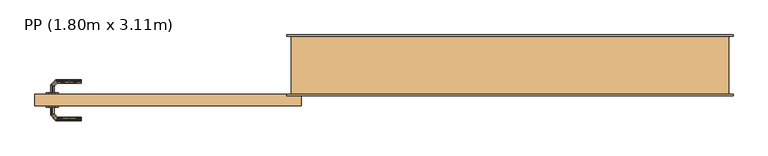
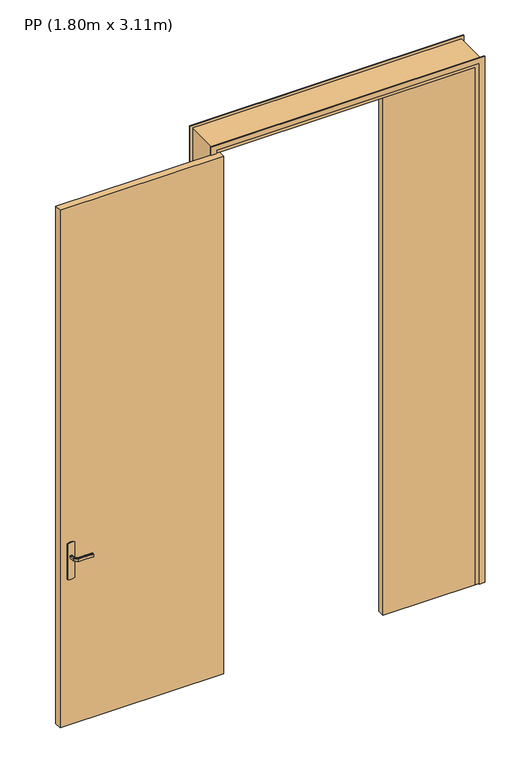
"""IFC4 building model written with IfcOpenShell, lengths in millimetres: door geometry, PP (1.80m x 3.11m)."""

import ifcopenshell
import ifcopenshell.guid

model = None  # the IFC model being written
_history = None  # IfcOwnerHistory: only IFC2X3 demands one
_inside = {}  # id of a spatial element -> (the spatial element, [elements in it])
_under = {}  # id of a project, library or spatial element -> (it, [spatial elements below it])
_declared = {}  # id of a project -> (the project, [libraries it declares])
_typed = {}  # id of a type object -> (the type object, [elements of that type])
_made_of = {}  # id of a material, layer set ... -> (it, [elements and type objects made of it])


def new_model(schema):
    """Start an empty IFC model of exactly this schema.

    Asked for "IFC4X3", IfcOpenShell would pick the latest addendum, in which some entities
    have other attributes; the version numbers below select the first issue.
    IFC2X3 requires an IfcOwnerHistory on every rooted entity: one is made here for all.
    """
    global model, _history
    if schema == "IFC4X3":
        model = ifcopenshell.file(schema_version=(4, 3, 0, 0))
    else:
        model = ifcopenshell.file(schema=schema)
    _inside.clear()
    _under.clear()
    _declared.clear()
    _typed.clear()
    _made_of.clear()
    _history = None
    if model.schema == "IFC2X3":
        org = make("IfcOrganization", Name="unknown")
        user = make(
            "IfcPersonAndOrganization",
            ThePerson=make("IfcPerson", FamilyName="unknown"),
            TheOrganization=org,
        )
        app = make(
            "IfcApplication",
            ApplicationDeveloper=org,
            Version="unknown",
            ApplicationFullName="unknown",
            ApplicationIdentifier="unknown",
        )
        _history = make(
            "IfcOwnerHistory",
            OwningUser=user,
            OwningApplication=app,
            ChangeAction="ADDED",
            CreationDate=0,
        )
    return model


def make(cls, **values):
    """One entity of the class cls with the attributes given. An attribute that is None is left unset."""
    return model.create_entity(
        cls, **{name: value for name, value in values.items() if value is not None}
    )


def rooted(cls, **values):
    """An entity with a GlobalId (a new one), such as an element, a storey or a relation."""
    return make(cls, GlobalId=ifcopenshell.guid.new(), OwnerHistory=_history, **values)


def si_unit(unit_type, name, prefix=None):
    """IfcSIUnit, for example si_unit("LENGTHUNIT", "METRE", prefix="MILLI")."""
    return make("IfcSIUnit", UnitType=unit_type, Prefix=prefix, Name=name)


def assignment(units):
    """IfcUnitAssignment: the units of a project."""
    return None if units is None else make("IfcUnitAssignment", Units=units)


def point(xyz):
    """IfcCartesianPoint."""
    return None if xyz is None else make("IfcCartesianPoint", Coordinates=xyz)


def direction(xyz):
    """IfcDirection."""
    return None if xyz is None else make("IfcDirection", DirectionRatios=xyz)


def frame(location, z_axis=None, x_axis=None):
    """IfcAxis2Placement3D, a coordinate frame: its origin and axes. An axis left out is left unset."""
    return make(
        "IfcAxis2Placement3D",
        Location=point(location),
        Axis=direction(z_axis),
        RefDirection=direction(x_axis),
    )


def origin():
    """The frame at (0, 0, 0) with its axes left unset."""
    return frame((0.0, 0.0, 0.0))


def origin_with_axes():
    """The frame at (0, 0, 0) with the z axis (0, 0, 1) and the x axis (1, 0, 0) written out."""
    return frame((0.0, 0.0, 0.0), z_axis=(0.0, 0.0, 1.0), x_axis=(1.0, 0.0, 0.0))


def place(relative_to, where):
    """IfcLocalPlacement: puts the frame where relative to a parent placement (None: the world)."""
    return make(
        "IfcLocalPlacement", PlacementRelTo=relative_to, RelativePlacement=where
    )


def context(
    kind, dimensions, precision=None, world=None, true_north=None, identifier=None
):
    """IfcGeometricRepresentationContext, for example the 3D "Model" context."""
    return make(
        "IfcGeometricRepresentationContext",
        ContextIdentifier=identifier,
        ContextType=kind,
        CoordinateSpaceDimension=dimensions,
        Precision=precision,
        WorldCoordinateSystem=world,
        TrueNorth=true_north,
    )


def project(units=None, contexts=None):
    """IfcProject with its units and contexts."""
    return rooted(
        "IfcProject",
        Name="project",
        RepresentationContexts=contexts,
        UnitsInContext=assignment(units),
    )


def spatial(cls, under=None, at=None, **own):
    """A site, building, storey or space (cls), placed at a placement, below another one or the project."""
    s = rooted(cls, ObjectPlacement=at, **own)
    if under is not None:
        _under.setdefault(under.id(), (under, []))[1].append(s)
    return s


def polyline(points):
    """IfcPolyline through the points."""
    return make("IfcPolyline", Points=[point(p) for p in points])


def outline(outer, holes=None, kind="AREA"):
    """IfcArbitraryClosedProfileDef: a profile drawn as a closed curve; with holes, ...WithVoids."""
    if holes is None:
        return make("IfcArbitraryClosedProfileDef", ProfileType=kind, OuterCurve=outer)
    return make(
        "IfcArbitraryProfileDefWithVoids",
        ProfileType=kind,
        OuterCurve=outer,
        InnerCurves=holes,
    )


def extrude(swept, where, along, depth):
    """IfcExtrudedAreaSolid: the profile swept, set in the frame where, extruded along a direction by depth."""
    return make(
        "IfcExtrudedAreaSolid",
        SweptArea=swept,
        Position=where,
        ExtrudedDirection=direction(along),
        Depth=depth,
    )


def faces_of(points, faces, orient=None, outer=None):
    """IfcFace entities. A face is a list of loops; a loop is a list of indices into points, from 0.

    orient and outer hold one flag for each loop. By default every Orientation is true, the
    first loop of a face is its IfcFaceOuterBound and the others are IfcFaceBound.
    """
    made = []
    for i, loops in enumerate(faces):
        bounds = []
        for j, loop in enumerate(loops):
            is_outer = j == 0 if outer is None else outer[i][j]
            bounds.append(
                make(
                    "IfcFaceOuterBound" if is_outer else "IfcFaceBound",
                    Bound=make("IfcPolyLoop", Polygon=[points[k] for k in loop]),
                    Orientation=True if orient is None else orient[i][j],
                )
            )
        made.append(make("IfcFace", Bounds=bounds))
    return made


def faceted_brep(points, faces, orient=None, outer=None, voids=None):
    """IfcFacetedBrep: a solid bounded by flat faces; with voids (closed shells), ...WithVoids."""
    shared = [point(p) for p in points]
    hull = make("IfcClosedShell", CfsFaces=faces_of(shared, faces, orient, outer))
    if voids is None:
        return make("IfcFacetedBrep", Outer=hull)
    return make(
        "IfcFacetedBrepWithVoids",
        Outer=hull,
        Voids=[
            make(cls, CfsFaces=faces_of(shared, fs, o, b)) for cls, fs, o, b in voids
        ],
    )


def shape(context_of_items, identifier, shape_type, items):
    """IfcShapeRepresentation: the items that make up one representation, for example the "Body"."""
    return make(
        "IfcShapeRepresentation",
        ContextOfItems=context_of_items,
        RepresentationIdentifier=identifier,
        RepresentationType=shape_type,
        Items=items,
    )


def source(mapping_origin, context_of_items, identifier, shape_type, items):
    """IfcRepresentationMap: a shape defined once, which mapped items show again and again."""
    return make(
        "IfcRepresentationMap",
        MappingOrigin=mapping_origin,
        MappedRepresentation=shape(context_of_items, identifier, shape_type, items),
    )


def transform(
    local_origin,
    x_axis=None,
    y_axis=None,
    z_axis=None,
    scale=None,
    scale2=None,
    scale3=None,
    uniform=True,
):
    """IfcCartesianTransformationOperator3D, or its non-uniform kind. x_axis, y_axis, z_axis: its Axis1, 2, 3."""
    if uniform:
        return make(
            "IfcCartesianTransformationOperator3D",
            Axis1=direction(x_axis),
            Axis2=direction(y_axis),
            LocalOrigin=point(local_origin),
            Scale=scale,
            Axis3=direction(z_axis),
        )
    return make(
        "IfcCartesianTransformationOperator3DnonUniform",
        Axis1=direction(x_axis),
        Axis2=direction(y_axis),
        LocalOrigin=point(local_origin),
        Scale=scale,
        Axis3=direction(z_axis),
        Scale2=scale2,
        Scale3=scale3,
    )


def mapped(mapping_source, mapping_target):
    """IfcMappedItem: shows the shape of a source again, moved by a transform."""
    return make(
        "IfcMappedItem", MappingSource=mapping_source, MappingTarget=mapping_target
    )


def made_of(thing, what):
    """Note that an element or type object is made of a material, layer set ...; save() writes the relation."""
    if what is not None:
        _made_of.setdefault(what.id(), (what, []))[1].append(thing)
    return thing


def element(
    cls,
    number,
    at=None,
    inside=None,
    cuts=None,
    type_object=None,
    material=None,
    context=None,
    identifier="Body",
    shape_type=None,
    held_by="IfcProductDefinitionShape",
    body=None,
    shapes=None,
    **own,
):
    """One element of the class cls, such as IfcWall. Its Tag is "e" and its number.

    at: its placement. inside: the storey or other place that contains it. cuts: it is an
    opening in that element (IfcRelVoidsElement). A single representation is given by context,
    identifier, shape_type and body (its items); several are given by shapes. held_by: the class
    of the entity that holds the representations. save() writes the other relations.
    """
    e = rooted(cls, Tag="e%d" % number, ObjectPlacement=at, **own)
    if body is not None:
        shapes = [shape(context, identifier, shape_type, body)]
    if shapes is not None:
        e.Representation = make(held_by, Representations=shapes)
    if inside is not None:
        _inside.setdefault(inside.id(), (inside, []))[1].append(e)
    if cuts is not None:
        rooted(
            "IfcRelVoidsElement", RelatingBuildingElement=cuts, RelatedOpeningElement=e
        )
    if type_object is not None:
        _typed.setdefault(type_object.id(), (type_object, []))[1].append(e)
    return made_of(e, material)


def aggregate(whole, parts):
    """IfcRelAggregates: a whole, such as a stair, and the parts it consists of."""
    return rooted("IfcRelAggregates", RelatingObject=whole, RelatedObjects=parts)


def save(model, path):
    """Write the relations noted so far, then the file.

    IfcRelAggregates (storeys below a building ...), IfcRelContainedInSpatialStructure (elements
    in a storey), IfcRelDefinesByType, IfcRelAssociatesMaterial and IfcRelDeclares: one each for
    every whole, place, type object, material and project.
    """
    for whole, parts in _under.values():
        aggregate(whole, parts)
    for where, things in _inside.values():
        rooted(
            "IfcRelContainedInSpatialStructure",
            RelatedElements=things,
            RelatingStructure=where,
        )
    for kind, things in _typed.values():
        rooted("IfcRelDefinesByType", RelatedObjects=things, RelatingType=kind)
    for what, things in _made_of.values():
        rooted("IfcRelAssociatesMaterial", RelatedObjects=things, RelatingMaterial=what)
    for by, libraries in _declared.values():
        rooted("IfcRelDeclares", RelatingContext=by, RelatedDefinitions=libraries)
    model.write(path)


def pp_1_80m_x_3_11m_81251f9f(model_context):
    return source(origin(), model_context, "Body", "SolidModel", [
        faceted_brep([(-822.9747013, 5.0, 1007.7804408), (-827.0252987, 5.0, 1007.7804408), (-831.0, 5.0, 1007.0), (-831.0, 5.0, 993.0), (-827.0252987, 5.0, 992.2195592), (-822.9747013, 5.0, 992.2195592), (-819.0, 5.0, 993.0), (-819.0, 5.0, 1007.0), (-827.0252987, 31.0045755, 1007.7804408), (-831.0, 32.6509507, 1007.0), (-822.9747013, 29.3267632, 1007.7804408), (-809.2986025, 43.002862, 1007.7804408), (-810.9764148, 47.0534593, 1007.7804408), (-819.0, 27.680388, 1007.0), (-819.0, 27.680388, 993.0), (-822.9747013, 29.3267632, 992.2195592), (-827.0252987, 31.0045755, 992.2195592), (-810.9764148, 47.0534593, 992.2195592), (-809.2986025, 43.002862, 992.2195592), (-831.0, 32.6509507, 993.0), (-812.62279, 51.0281607, 1007.0), (-807.6522273, 39.0281607, 1007.0), (-807.6522273, 39.0281607, 993.0), (-812.62279, 51.0281607, 993.0), (-724.9813594, 51.0281607, 1007.0), (-724.9813594, 47.0534593, 1007.7804408), (-724.9813594, 43.002862, 1007.7804408), (-724.9813594, 39.0281607, 1007.0), (-724.9813594, 39.0281607, 993.0), (-724.9813594, 43.002862, 992.2195592), (-724.9813594, 47.0534593, 992.2195592), (-724.9813594, 51.0281607, 993.0), (-767.1399809, 45.0281607, 1007.8786868), (-772.6923028, 51.0281607, 1007.0), (-766.3167933, 39.0281607, 1007.0), (-766.3167933, 39.0281607, 993.0), (-767.1399811, 45.0281608, 992.1213132), (-772.6923104, 51.0281607, 993.0)], [[[0, 1, 2, 3, 4, 5, 6, 7]], [[2, 1, 8, 9]], [[1, 0, 10, 11, 12, 8]], [[0, 7, 13, 10]], [[14, 13, 7, 6]], [[5, 15, 14, 6]], [[5, 4, 16, 17, 18, 15]], [[3, 19, 16, 4]], [[9, 19, 3, 2]], [[9, 8, 12, 20]], [[10, 13, 21, 11]], [[22, 21, 13, 14]], [[14, 15, 18, 22]], [[16, 19, 23, 17]], [[20, 23, 19, 9]], [[24, 25, 26, 27, 28, 29, 30, 31]], [[32, 25, 33]], [[33, 25, 24]], [[33, 20, 12]], [[11, 34, 32]], [[34, 11, 21]], [[27, 26, 34]], [[32, 26, 25]], [[32, 34, 26]], [[32, 33, 12]], [[11, 32, 12]], [[21, 22, 35, 28, 27, 34]], [[36, 29, 35]], [[30, 36, 37]], [[18, 35, 22]], [[29, 28, 35]], [[30, 37, 31]], [[37, 17, 23]], [[36, 17, 37]], [[36, 18, 17]], [[36, 35, 18]], [[29, 36, 30]], [[23, 20, 33, 24, 31, 37]]]),
        extrude(outline(polyline([(1085.3589838, -825.0), (1083.9960169, -835.3527618), (1080.0, -845.0), (870.0, -845.0), (866.0039831, -835.3527618), (864.6410162, -825.0), (866.0039831, -814.6472382), (870.0, -805.0), (1080.0, -805.0), (1083.9960169, -814.6472382), (1085.3589838, -825.0)])), frame((0.0, -45.0, 0.0), z_axis=(0.0, 1.0, 0.0), x_axis=(0.0, 0.0, 1.0)), (0.0, 0.0, 1.0), 5.0),
        extrude(outline(polyline([(0.0, -15.0), (0.0, 15.0), (3095.0, 15.0), (3095.0, 1495.0), (0.0, 1495.0), (0.0, 1525.0), (3125.0, 1525.0), (3125.0, -15.0), (0.0, -15.0)])), frame((0.0, 200.0, 0.0), z_axis=(0.0, 1.0, 0.0), x_axis=(0.0, 0.0, 1.0)), (0.0, 0.0, 1.0), 5.0),
        extrude(outline(polyline([(1080.0, -845.0), (870.0, -845.0), (866.0039831, -835.3527618), (864.6410162, -825.0), (866.0039831, -814.6472382), (870.0, -805.0), (1080.0, -805.0), (1083.9960169, -814.6472382), (1085.3589838, -825.0), (1083.9960169, -835.3527618), (1080.0, -845.0)])), frame((0.0, 0.0, 0.0), z_axis=(0.0, 1.0, 0.0), x_axis=(0.0, 0.0, 1.0)), (0.0, 0.0, 1.0), 5.0),
        extrude(outline(polyline([(-885.0, -40.0), (-885.0, 0.0), (35.0, 0.0), (35.0, -40.0), (-885.0, -40.0)])), origin_with_axes(), (0.0, 0.0, 1.0), 3075.0),
        faceted_brep([(0.0, 0.0, 0.0), (0.0, 200.0, 0.0), (50.0, 200.0, 0.0), (50.0, 40.0, 0.0), (35.0, 40.0, 0.0), (35.0, 0.0, 0.0), (0.0, 0.0, 3110.0), (0.0, 200.0, 3110.0), (1510.0, 200.0, 3110.0), (1510.0, 200.0, 0.0), (1460.0, 200.0, 0.0), (1460.0, 200.0, 3060.0), (50.0, 200.0, 3060.0), (50.0, 40.0, 3060.0), (1460.0, 40.0, 3060.0), (1460.0, 40.0, 0.0), (1475.0, 40.0, 0.0), (1475.0, 40.0, 3075.0), (35.0, 40.0, 3075.0), (35.0, 0.0, 3075.0), (1475.0, 0.0, 3075.0), (1475.0, 0.0, 0.0), (1510.0, 0.0, 0.0), (1510.0, 0.0, 3110.0)], [[[0, 1, 2, 3, 4, 5]], [[1, 0, 6, 7]], [[2, 1, 7, 8, 9, 10, 11, 12]], [[3, 2, 12, 13]], [[4, 3, 13, 14, 15, 16, 17, 18]], [[5, 4, 18, 19]], [[0, 5, 19, 20, 21, 22, 23, 6]], [[8, 23, 22, 9]], [[22, 21, 16, 15, 10, 9]], [[14, 11, 10, 15]], [[20, 17, 16, 21]], [[7, 6, 23, 8]], [[13, 12, 11, 14]], [[19, 18, 17, 20]]]),
        faceted_brep([(-822.9747013, -45.0, 992.2195592), (-827.0252987, -45.0, 992.2195592), (-831.0, -45.0, 993.0), (-831.0, -45.0, 1007.0), (-827.0252987, -45.0, 1007.7804408), (-822.9747013, -45.0, 1007.7804408), (-819.0, -45.0, 1007.0), (-819.0, -45.0, 993.0), (-819.0, -67.4852045, 1007.0), (-819.0, -67.4852045, 993.0), (-822.9747013, -69.1315797, 1007.7804408), (-827.0252987, -70.8093921, 1007.7804408), (-810.8389062, -86.9957845, 1007.7804408), (-809.1610938, -82.9451872, 1007.7804408), (-831.0, -72.4557673, 1007.0), (-831.0, -72.4557673, 993.0), (-827.0252987, -70.8093921, 992.2195592), (-822.9747013, -69.1315797, 992.2195592), (-809.1610938, -82.9451872, 992.2195592), (-810.8389062, -86.9957845, 992.2195592), (-807.5147186, -78.9704859, 1007.0), (-807.5147186, -78.9704859, 993.0), (-812.4852814, -90.9704859, 1007.0), (-812.4852814, -90.9704859, 993.0), (-724.9542163, -82.9451872, 1007.7804408), (-724.9542163, -86.9957845, 1007.7804408), (-724.9542163, -90.9704859, 1007.0), (-724.9542163, -90.9704859, 993.0), (-724.9542163, -86.9957845, 992.2195592), (-724.9542163, -82.9451872, 992.2195592), (-724.9542163, -78.9704859, 993.0), (-724.9542163, -78.9704859, 1007.0), (-766.2344675, -78.9704859, 1007.0), (-766.2344794, -78.9704859, 993.0), (-767.0576551, -84.9704859, 1007.8786868), (-772.5547942, -90.9704859, 1007.0), (-772.5547957, -90.9704859, 993.0), (-767.0576549, -84.9704858, 992.1213132)], [[[0, 1, 2, 3, 4, 5, 6, 7]], [[8, 9, 7, 6]], [[5, 10, 8, 6]], [[5, 4, 11, 12, 13, 10]], [[3, 14, 11, 4]], [[14, 3, 2, 15]], [[2, 1, 16, 15]], [[1, 0, 17, 18, 19, 16]], [[0, 7, 9, 17]], [[20, 21, 9, 8]], [[8, 10, 13, 20]], [[14, 22, 12, 11]], [[23, 22, 14, 15]], [[15, 16, 19, 23]], [[17, 9, 21, 18]], [[24, 25, 26, 27, 28, 29, 30, 31]], [[21, 20, 32, 31, 30, 33]], [[34, 24, 32]], [[25, 34, 35]], [[13, 32, 20]], [[24, 31, 32]], [[25, 35, 26]], [[35, 12, 22]], [[34, 12, 35]], [[34, 13, 12]], [[34, 32, 13]], [[24, 34, 25]], [[22, 23, 36, 27, 26, 35]], [[37, 28, 36]], [[36, 28, 27]], [[36, 23, 19]], [[18, 33, 37]], [[33, 18, 21]], [[30, 29, 33]], [[37, 29, 28]], [[37, 33, 29]], [[37, 36, 19]], [[18, 37, 19]]]),
        extrude(outline(polyline([(1475.0, 0.0), (955.0, 0.0), (955.0, 40.0), (1475.0, 40.0), (1475.0, 0.0)])), origin_with_axes(), (0.0, 0.0, 1.0), 3075.0),
        extrude(outline(polyline([(0.0, -15.0), (0.0, 15.0), (3095.0, 15.0), (3095.0, 1495.0), (0.0, 1495.0), (0.0, 1525.0), (3125.0, 1525.0), (3125.0, -15.0), (0.0, -15.0)])), frame((0.0, -5.0, 0.0), z_axis=(0.0, 1.0, 0.0), x_axis=(0.0, 0.0, 1.0)), (0.0, 0.0, 1.0), 5.0),
    ])


if __name__ == "__main__":
    model = new_model("IFC4")
    model_context = context("Model", 3, world=origin())
    ifc_project = project(units=[si_unit("LENGTHUNIT", "METRE", prefix="MILLI")], contexts=[model_context])
    site = spatial("IfcSite", under=ifc_project)
    building = spatial("IfcBuilding", under=site)
    placement = place(None, origin())
    pp_1_80m_x_3_11m_shape = pp_1_80m_x_3_11m_81251f9f(model_context)
    element("IfcDoor", 1, ObjectType="PP (1.80m x 3.11m)", at=placement, inside=building, context=model_context, shape_type="MappedRepresentation", body=[
        mapped(pp_1_80m_x_3_11m_shape, transform((0.0, 0.0, 0.0), x_axis=(1.0, 0.0, 0.0), y_axis=(0.0, 1.0, 0.0), z_axis=(0.0, 0.0, 1.0))),
    ])
    save(model, "model.ifc")
